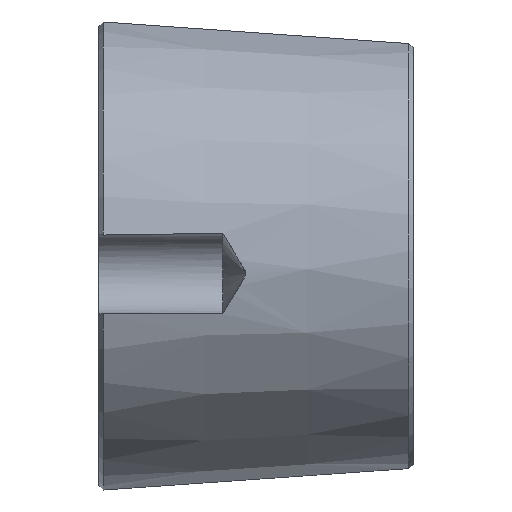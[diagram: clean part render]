
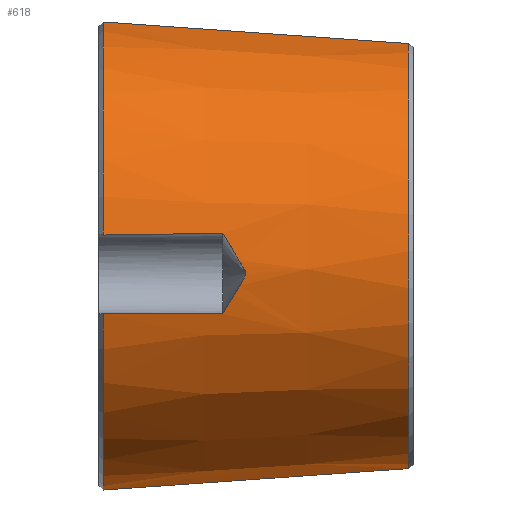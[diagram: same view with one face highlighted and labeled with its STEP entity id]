
A CAD part, top view. The second image highlights one B-rep face of the part: STEP entity #618.
In plain terms, the highlighted conical face has half-angle 4 degrees and reference radius 27.206 mm.
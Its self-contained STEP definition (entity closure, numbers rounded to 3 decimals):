
#16=(
BOUNDED_CURVE()
B_SPLINE_CURVE(2,(#1038,#1039,#1040),.UNSPECIFIED.,.F.,.F.)
B_SPLINE_CURVE_WITH_KNOTS((3,3),(0.,3.709),.UNSPECIFIED.)
CURVE()
GEOMETRIC_REPRESENTATION_ITEM()
RATIONAL_B_SPLINE_CURVE((1.,1.001,1.))
REPRESENTATION_ITEM('')
);
#110=CONICAL_SURFACE('',#678,27.206,4.);
#140=FACE_OUTER_BOUND('',#174,.T.);
#174=EDGE_LOOP('',(#517,#518,#519,#520,#521,#522,#523,#524));
#203=CIRCLE('',#657,28.5);
#207=CIRCLE('',#673,25.913);
#211=CIRCLE('',#679,28.5);
#226=B_SPLINE_CURVE_WITH_KNOTS('',3,(#927,#928,#929,#930,#931,#932,#933,
#934,#935,#936,#937,#938,#939,#940,#941,#942,#943,#944,#945,#946),
 .UNSPECIFIED.,.F.,.F.,(4,2,2,2,2,2,2,2,2,4),(1.899,2.099,
2.249,2.399,2.446,2.489,2.565,
2.64,2.791,2.999),.UNSPECIFIED.);
#228=B_SPLINE_CURVE_WITH_KNOTS('',3,(#955,#956,#957,#958,#959,#960),
 .UNSPECIFIED.,.F.,.F.,(4,2,4),(0.957,1.622,2.286),
 .UNSPECIFIED.);
#229=B_SPLINE_CURVE_WITH_KNOTS('',3,(#962,#963,#964,#965,#966,#967),
 .UNSPECIFIED.,.F.,.F.,(4,2,4),(0.958,1.622,2.287),
 .UNSPECIFIED.);
#233=B_SPLINE_CURVE_WITH_KNOTS('',3,(#1111,#1112,#1113,#1114,#1115,#1116,
#1117,#1118),.UNSPECIFIED.,.F.,.F.,(4,2,2,4),(0.939,1.815,
3.587,4.398),.UNSPECIFIED.);
#243=VERTEX_POINT('',#925);
#244=VERTEX_POINT('',#926);
#245=VERTEX_POINT('',#949);
#247=VERTEX_POINT('',#961);
#267=VERTEX_POINT('',#1021);
#271=VERTEX_POINT('',#1035);
#272=VERTEX_POINT('',#1037);
#291=VERTEX_POINT('',#1110);
#308=EDGE_CURVE('',#243,#244,#226,.T.);
#311=EDGE_CURVE('',#244,#245,#228,.T.);
#312=EDGE_CURVE('',#247,#243,#229,.T.);
#337=EDGE_CURVE('',#267,#247,#203,.T.);
#342=EDGE_CURVE('',#272,#271,#16,.T.);
#370=EDGE_CURVE('',#291,#267,#233,.T.);
#383=EDGE_CURVE('',#291,#271,#207,.T.);
#387=EDGE_CURVE('',#245,#272,#211,.T.);
#517=ORIENTED_EDGE('',*,*,#311,.T.);
#518=ORIENTED_EDGE('',*,*,#387,.T.);
#519=ORIENTED_EDGE('',*,*,#342,.T.);
#520=ORIENTED_EDGE('',*,*,#383,.F.);
#521=ORIENTED_EDGE('',*,*,#370,.T.);
#522=ORIENTED_EDGE('',*,*,#337,.T.);
#523=ORIENTED_EDGE('',*,*,#312,.T.);
#524=ORIENTED_EDGE('',*,*,#308,.T.);
#618=ADVANCED_FACE('',(#140),#110,.T.);
#657=AXIS2_PLACEMENT_3D('',#1022,#760,#761);
#673=AXIS2_PLACEMENT_3D('',#1164,#815,#816);
#678=AXIS2_PLACEMENT_3D('',#1169,#825,#826);
#679=AXIS2_PLACEMENT_3D('',#1170,#827,#828);
#760=DIRECTION('center_axis',(1.,0.,0.));
#761=DIRECTION('ref_axis',(0.,0.,-1.));
#815=DIRECTION('center_axis',(1.,0.,0.));
#816=DIRECTION('ref_axis',(0.,0.,-1.));
#825=DIRECTION('center_axis',(-1.,0.,0.));
#826=DIRECTION('ref_axis',(0.,1.,0.));
#827=DIRECTION('center_axis',(1.,0.,0.));
#828=DIRECTION('ref_axis',(0.,0.,-1.));
#925=CARTESIAN_POINT('',(8.475,17.035,27.37));
#926=CARTESIAN_POINT('',(8.475,7.273,26.516));
#927=CARTESIAN_POINT('Ctrl Pts',(8.475,17.035,27.37));
#928=CARTESIAN_POINT('Ctrl Pts',(8.832,16.435,27.4));
#929=CARTESIAN_POINT('Ctrl Pts',(9.187,15.838,27.411));
#930=CARTESIAN_POINT('Ctrl Pts',(9.801,14.804,27.395));
#931=CARTESIAN_POINT('Ctrl Pts',(10.063,14.364,27.378));
#932=CARTESIAN_POINT('Ctrl Pts',(10.578,13.491,27.324));
#933=CARTESIAN_POINT('Ctrl Pts',(10.842,13.063,27.286));
#934=CARTESIAN_POINT('Ctrl Pts',(11.141,12.482,27.225));
#935=CARTESIAN_POINT('Ctrl Pts',(11.227,12.315,27.206));
#936=CARTESIAN_POINT('Ctrl Pts',(11.243,12.016,27.179));
#937=CARTESIAN_POINT('Ctrl Pts',(11.175,11.857,27.168));
#938=CARTESIAN_POINT('Ctrl Pts',(11.003,11.502,27.144));
#939=CARTESIAN_POINT('Ctrl Pts',(10.876,11.285,27.128));
#940=CARTESIAN_POINT('Ctrl Pts',(10.624,10.849,27.09));
#941=CARTESIAN_POINT('Ctrl Pts',(10.496,10.632,27.069));
#942=CARTESIAN_POINT('Ctrl Pts',(10.108,9.977,26.997));
#943=CARTESIAN_POINT('Ctrl Pts',(9.846,9.539,26.939));
#944=CARTESIAN_POINT('Ctrl Pts',(9.216,8.492,26.773));
#945=CARTESIAN_POINT('Ctrl Pts',(8.847,7.882,26.655));
#946=CARTESIAN_POINT('Ctrl Pts',(8.475,7.273,26.516));
#949=CARTESIAN_POINT('',(-6.025,7.308,27.575));
#955=CARTESIAN_POINT('Ctrl Pts',(8.475,7.273,26.516));
#956=CARTESIAN_POINT('Ctrl Pts',(6.081,7.26,26.686));
#957=CARTESIAN_POINT('Ctrl Pts',(3.65,7.256,26.861));
#958=CARTESIAN_POINT('Ctrl Pts',(-1.208,7.267,27.216));
#959=CARTESIAN_POINT('Ctrl Pts',(-3.635,7.282,27.395));
#960=CARTESIAN_POINT('Ctrl Pts',(-6.025,7.308,27.575));
#961=CARTESIAN_POINT('',(-6.025,16.816,28.407));
#962=CARTESIAN_POINT('Ctrl Pts',(-6.025,16.816,28.407));
#963=CARTESIAN_POINT('Ctrl Pts',(-3.635,16.873,28.234));
#964=CARTESIAN_POINT('Ctrl Pts',(-1.208,16.919,28.06));
#965=CARTESIAN_POINT('Ctrl Pts',(3.65,16.992,27.713));
#966=CARTESIAN_POINT('Ctrl Pts',(6.081,17.018,27.54));
#967=CARTESIAN_POINT('Ctrl Pts',(8.475,17.035,27.37));
#1021=CARTESIAN_POINT('',(-6.025,42.633,4.625));
#1022=CARTESIAN_POINT('Origin',(-6.025,14.511,0.));
#1035=CARTESIAN_POINT('',(30.975,-11.391,0.75));
#1037=CARTESIAN_POINT('',(-6.025,-13.979,0.75));
#1038=CARTESIAN_POINT('Ctrl Pts',(-6.025,-13.979,0.75));
#1039=CARTESIAN_POINT('Ctrl Pts',(13.356,-12.624,0.75));
#1040=CARTESIAN_POINT('Ctrl Pts',(30.975,-11.391,0.75));
#1110=CARTESIAN_POINT('',(30.975,40.025,4.529));
#1111=CARTESIAN_POINT('Ctrl Pts',(30.975,40.025,4.529));
#1112=CARTESIAN_POINT('Ctrl Pts',(27.771,40.24,4.599));
#1113=CARTESIAN_POINT('Ctrl Pts',(24.576,40.457,4.652));
#1114=CARTESIAN_POINT('Ctrl Pts',(15.772,41.063,4.76));
#1115=CARTESIAN_POINT('Ctrl Pts',(9.293,41.519,4.786));
#1116=CARTESIAN_POINT('Ctrl Pts',(-0.151,42.202,4.715));
#1117=CARTESIAN_POINT('Ctrl Pts',(-3.116,42.418,4.678));
#1118=CARTESIAN_POINT('Ctrl Pts',(-6.025,42.633,4.625));
#1164=CARTESIAN_POINT('Origin',(30.975,14.511,0.));
#1169=CARTESIAN_POINT('Origin',(12.475,14.511,0.));
#1170=CARTESIAN_POINT('Origin',(-6.025,14.511,0.));
